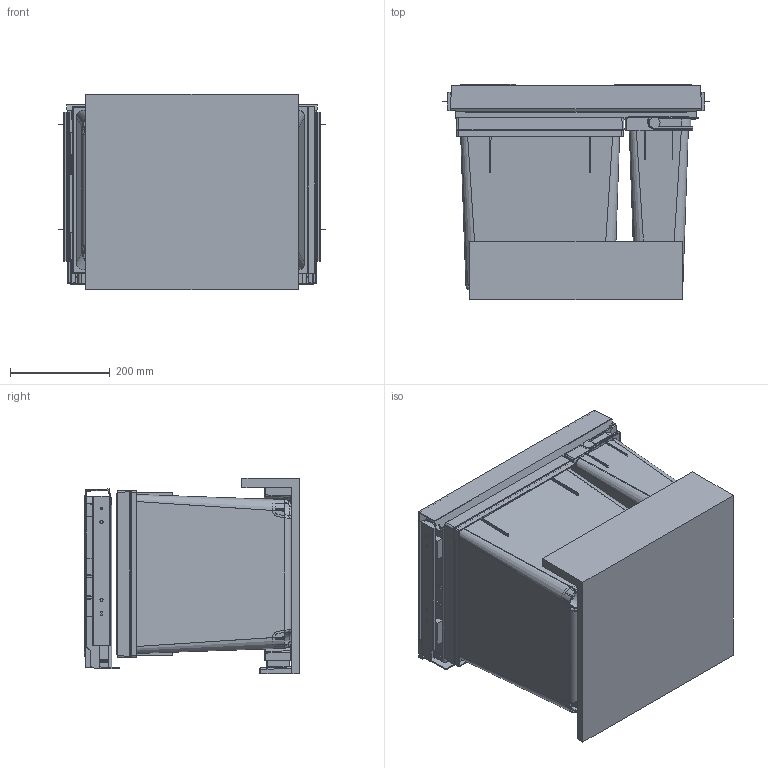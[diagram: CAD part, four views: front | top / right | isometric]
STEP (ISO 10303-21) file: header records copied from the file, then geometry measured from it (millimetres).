
FILE_DESCRIPTION((''),'2;1');
FILE_NAME('1003064','2024-07-18T07:26:17',('pbe'),(''),'CREO PARAMETRIC BY PTC INC, 2021184','CREO PARAMETRIC BY PTC INC, 2021184','');
FILE_SCHEMA(('AUTOMOTIVE_DESIGN { 1 0 10303 214 1 1 1 1 }'));
Products named in the file (1): 1003064
Bounding box: 538 x 432.5 x 393 mm (x, y, z)
Volume: 7328210.9 mm3; surface area: 3662851.6 mm2
Topology: 18 solids, 18 shells, 2240 faces, 6045 edges, 3875 vertices
Faces by surface type: plane 1148, cylinder 560, bspline 214, cone 158, torus 106, sphere 46, extrusion 8
Entity records: 88110 total; most frequent: CARTESIAN_POINT 33790, ORIENTED_EDGE 11998, DIRECTION 10329, EDGE_CURVE 5999, VERTEX_POINT 3875, VECTOR 3528, LINE 3520, AXIS2_PLACEMENT_3D 3399
